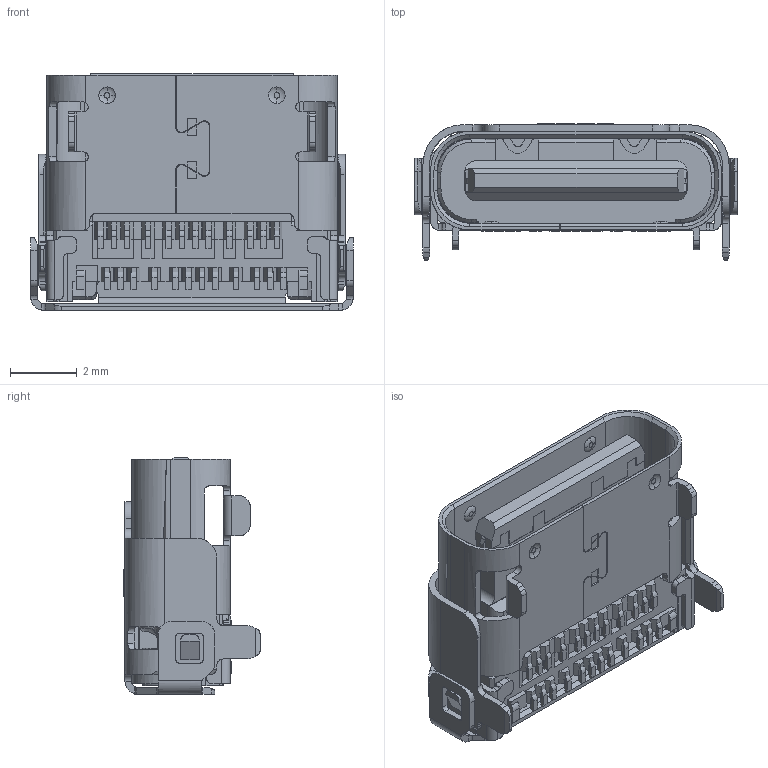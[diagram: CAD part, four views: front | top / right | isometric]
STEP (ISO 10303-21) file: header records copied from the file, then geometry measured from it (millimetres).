
FILE_DESCRIPTION (( 'STEP AP203' ), '1' );
FILE_NAME ('U5460-24PN7.11L.stp', '2026-08-20T07:47:08', ( '' ), ( '' ), 'SwSTEP 2.0', 'SolidWorks 2020', '' );
FILE_SCHEMA (( 'CONFIG_CONTROL_DESIGN' ));
Length unit declared in the file: millimetre
Products named in the file (27): MSBR.1.1.1.1.1.1.1.1.2.1.1.2.1.1.1.1.1.1.1.1.1.1.2.1.1.1.2.2^LAYER-2_LAYER.5-1_a1_333.stp_UH0B01-069_C_F_TYPES_c_SMT6.75_2_.stp_stp_USB_Type_C_24PIN_SMT_on_borad_top_cover_L_7.1_20230620.stp_~; MSBR.1.1.1.1.1.1.1.1.2.1.1.2.1.1.1.1.1.1.1.1.1.1.2.3^LAYER-2_LAYER.5-1_a1_333.stp_UH0B01-069_C_F_TYPES_c_SMT6.75_2_.stp_stp_USB_Type_C_24PIN_SMT_on_borad_top_cover_L_7.1_20230620.stp_U5460-24~; MSBR.1.1.1.1.1.1.1.1.2.1.1.2.1.1.1.1.1.1.1.2.1.1.1.1.2^MD2_ASS_ASM_a1_333.stp_UH0B01-069_C_F_TYPES_c_SMT6.75_2_.stp_stp_USB_Type_C_24PIN_SMT_on_borad_top_cover_L_7.1_20230620.stp_U5460-24PN7.~; p1^HOUSING_BASE_1_333.stp_UH0B01-069_C_F_TYPES_c_SMT6.75_2_.stp_stp_USB_Type_C_24PIN_SMT_on_borad_top_cover_L_7.1_20230620.stp_U5460-24PN7.11L(2)_U5460-24PN7.11L; MSBR.1.1.1.1.1.1.1.1.2.1.1.2.1.1.1.1.1.1.1.1.1.1.2.1.3^LAYER-2_LAYER.5-1_a1_333.stp_UH0B01-069_C_F_TYPES_c_SMT6.75_2_.stp_stp_USB_Type_C_24PIN_SMT_on_borad_top_cover_L_7.1_20230620.stp_U5460-~; U5460-24PN7.11L(2)^U5460-24PN7.11L; MSBR.1.1.1.1.1.1.1.1.2.1.1.2.1.1.1.1.1.1.1.1.1.1.3^LAYER-2_LAYER.5-1_a1_333.stp_UH0B01-069_C_F_TYPES_c_SMT6.75_2_.stp_stp_USB_Type_C_24PIN_SMT_on_borad_top_cover_L_7.1_20230620.stp_U5460-24PN~; stp^USB_Type_C_24PIN_SMT_on_borad_top_cover_L_7.1_20230620.stp_U5460-24PN7.11L(2)_U5460-24PN7.11L; USB_Type_C_24PIN_SMT_on_borad_top_cover_L_7.1_20230620.stp^U5460-24PN7.11L(2)_U5460-24PN7.11L; p2^HOUSING_BASE_1_333.stp_UH0B01-069_C_F_TYPES_c_SMT6.75_2_.stp_stp_USB_Type_C_24PIN_SMT_on_borad_top_cover_L_7.1_20230620.stp_U5460-24PN7.11L(2)_U5460-24PN7.11L; MSBR.1.1.1.1.1.1.1.1.2.1.1.2.1.1.1.1.1.1.1.1.1.3^LAYER-2_LAYER.5-1_a1_333.stp_UH0B01-069_C_F_TYPES_c_SMT6.75_2_.stp_stp_USB_Type_C_24PIN_SMT_on_borad_top_cover_L_7.1_20230620.stp_U5460-24PN7.~; MSBR.1.1.1.1.1.1.1.1.2.1.1.2.1.1.1.1.1.1.1.1.3^LAYER-2_LAYER.5-1_a1_333.stp_UH0B01-069_C_F_TYPES_c_SMT6.75_2_.stp_stp_USB_Type_C_24PIN_SMT_on_borad_top_cover_L_7.1_20230620.stp_U5460-24PN7.11~; MSBR.1.1.1.1.1.1.1.1.2.1.1.2.1.1.1.1.1.1.1.3.1.2^LAYER-2_LAYER.5-1_a1_333.stp_UH0B01-069_C_F_TYPES_c_SMT6.75_2_.stp_stp_USB_Type_C_24PIN_SMT_on_borad_top_cover_L_7.1_20230620.stp_U5460-24PN7.~; LAYER-2^LAYER.5-1_a1_333.stp_UH0B01-069_C_F_TYPES_c_SMT6.75_2_.stp_stp_USB_Type_C_24PIN_SMT_on_borad_top_cover_L_7.1_20230620.stp_U5460-24PN7.11L(2)_U5460-24PN7.11L; U5460-24PN7.11L; a1^333.stp_UH0B01-069_C_F_TYPES_c_SMT6.75_2_.stp_stp_USB_Type_C_24PIN_SMT_on_borad_top_cover_L_7.1_20230620.stp_U5460-24PN7.11L(2)_U5460-24PN7.11L; MSBR.1.1.1.1.1.1.1.1.2.1.1.2.1.1.1.1.1.1.1.2.2.1.2^MD2_ASS_ASM_a1_333.stp_UH0B01-069_C_F_TYPES_c_SMT6.75_2_.stp_stp_USB_Type_C_24PIN_SMT_on_borad_top_cover_L_7.1_20230620.stp_U5460-24PN7.11L(~; cover_shell^USB_Type_C_24PIN_SMT_on_borad_top_cover_L_7.1_20230620.stp_U5460-24PN7.11L(2)_U5460-24PN7.11L; MD2_ASS_ASM^a1_333.stp_UH0B01-069_C_F_TYPES_c_SMT6.75_2_.stp_stp_USB_Type_C_24PIN_SMT_on_borad_top_cover_L_7.1_20230620.stp_U5460-24PN7.11L(2)_U5460-24PN7.11L; MSBR.1.1.1.1.1.1.1.1.2.1.1.2.1.1.1.1.1.1.1.2.3.1.1.2^LAYER-2_LAYER.5-1_a1_333.stp_UH0B01-069_C_F_TYPES_c_SMT6.75_2_.stp_stp_USB_Type_C_24PIN_SMT_on_borad_top_cover_L_7.1_20230620.stp_U5460-24~; HOUSING_BASE_1^333.stp_UH0B01-069_C_F_TYPES_c_SMT6.75_2_.stp_stp_USB_Type_C_24PIN_SMT_on_borad_top_cover_L_7.1_20230620.stp_U5460-24PN7.11L(2)_U5460-24PN7.11L; MSBR.1.1.1.1.1.1.1.1.2.1.1.2.1.1.1.1.1.1.1.1.1.1.2.1.1.2^LAYER-2_LAYER.5-1_a1_333.stp_UH0B01-069_C_F_TYPES_c_SMT6.75_2_.stp_stp_USB_Type_C_24PIN_SMT_on_borad_top_cover_L_7.1_20230620.stp_U546~; 333.stp^UH0B01-069_C_F_TYPES_c_SMT6.75_2_.stp_stp_USB_Type_C_24PIN_SMT_on_borad_top_cover_L_7.1_20230620.stp_U5460-24PN7.11L(2)_U5460-24PN7.11L; UH0B01-069_C_F_TYPES_c_SMT6.75_2_.stp^stp_USB_Type_C_24PIN_SMT_on_borad_top_cover_L_7.1_20230620.stp_U5460-24PN7.11L(2)_U5460-24PN7.11L; LAYER.5-1^a1_333.stp_UH0B01-069_C_F_TYPES_c_SMT6.75_2_.stp_stp_USB_Type_C_24PIN_SMT_on_borad_top_cover_L_7.1_20230620.stp_U5460-24PN7.11L(2)_U5460-24PN7.11L; MSBR.1.1.1.1.1.1.1.1.2.1.1.2.1.1.1.1.1.1.1.1.1.1.2.1.1.1.1.2^LAYER-2_LAYER.5-1_a1_333.stp_UH0B01-069_C_F_TYPES_c_SMT6.75_2_.stp_stp_USB_Type_C_24PIN_SMT_on_borad_top_cover_L_7.1_20230620.stp_~; MSBR.1.1.1.1.1.1.1.1.2.1.1.2.1.1.1.1.1.1.1.2.1.3.1.1.2^LAYER-2_LAYER.5-1_a1_333.stp_UH0B01-069_C_F_TYPES_c_SMT6.75_2_.stp_stp_USB_Type_C_24PIN_SMT_on_borad_top_cover_L_7.1_20230620.stp_U5460-~
Assembly tree (26 placements, depth 10):
  U5460-24PN7.11L
    U5460-24PN7.11L(2)^U5460-24PN7.11L
      USB_Type_C_24PIN_SMT_on_borad_top_cover_L_7.1_20230620.stp^U5460-24PN7.11L(2)_U5460-24PN7.11L
        stp^USB_Type_C_24PIN_SMT_on_borad_top_cover_L_7.1_20230620.stp_U5460-24PN7.11L(2)_U5460-24PN7.11L
          UH0B01-069_C_F_TYPES_c_SMT6.75_2_.stp^stp_USB_Type_C_24PIN_SMT_on_borad_top_cover_L_7.1_20230620.stp_U5460-24PN7.11L(2)_U5460-24PN7.11L
            333.stp^UH0B01-069_C_F_TYPES_c_SMT6.75_2_.stp_stp_USB_Type_C_24PIN_SMT_on_borad_top_cover_L_7.1_20230620.stp_U5460-24PN7.11L(2)_U5460-24PN7.11L
              a1^333.stp_UH0B01-069_C_F_TYPES_c_SMT6.75_2_.stp_stp_USB_Type_C_24PIN_SMT_on_borad_top_cover_L_7.1_20230620.stp_U5460-24PN7.11L(2)_U5460-24PN7.11L
                MD2_ASS_ASM^a1_333.stp_UH0B01-069_C_F_TYPES_c_SMT6.75_2_.stp_stp_USB_Type_C_24PIN_SMT_on_borad_top_cover_L_7.1_20230620.stp_U5460-24PN7.11L(2)_U5460-24PN7.11L
                  MSBR.1.1.1.1.1.1.1.1.2.1.1.2.1.1.1.1.1.1.1.2.1.1.1.1.2^MD2_ASS_ASM_a1_333.stp_UH0B01-069_C_F_TYPES_c_SMT6.75_2_.stp_stp_USB_Type_C_24PIN_SMT_on_borad_top_cover_L_7.1_20230620.stp_U5460-24PN7.~
                  MSBR.1.1.1.1.1.1.1.1.2.1.1.2.1.1.1.1.1.1.1.2.2.1.2^MD2_ASS_ASM_a1_333.stp_UH0B01-069_C_F_TYPES_c_SMT6.75_2_.stp_stp_USB_Type_C_24PIN_SMT_on_borad_top_cover_L_7.1_20230620.stp_U5460-24PN7.11L(~
                LAYER.5-1^a1_333.stp_UH0B01-069_C_F_TYPES_c_SMT6.75_2_.stp_stp_USB_Type_C_24PIN_SMT_on_borad_top_cover_L_7.1_20230620.stp_U5460-24PN7.11L(2)_U5460-24PN7.11L
                  LAYER-2^LAYER.5-1_a1_333.stp_UH0B01-069_C_F_TYPES_c_SMT6.75_2_.stp_stp_USB_Type_C_24PIN_SMT_on_borad_top_cover_L_7.1_20230620.stp_U5460-24PN7.11L(2)_U5460-24PN7.11L
              HOUSING_BASE_1^333.stp_UH0B01-069_C_F_TYPES_c_SMT6.75_2_.stp_stp_USB_Type_C_24PIN_SMT_on_borad_top_cover_L_7.1_20230620.stp_U5460-24PN7.11L(2)_U5460-24PN7.11L
                p2^HOUSING_BASE_1_333.stp_UH0B01-069_C_F_TYPES_c_SMT6.75_2_.stp_stp_USB_Type_C_24PIN_SMT_on_borad_top_cover_L_7.1_20230620.stp_U5460-24PN7.11L(2)_U5460-24PN7.11L
                p1^HOUSING_BASE_1_333.stp_UH0B01-069_C_F_TYPES_c_SMT6.75_2_.stp_stp_USB_Type_C_24PIN_SMT_on_borad_top_cover_L_7.1_20230620.stp_U5460-24PN7.11L(2)_U5460-24PN7.11L
        cover_shell^USB_Type_C_24PIN_SMT_on_borad_top_cover_L_7.1_20230620.stp_U5460-24PN7.11L(2)_U5460-24PN7.11L
Bounding box: 9.7 x 4.09 x 7.11 mm (x, y, z)
Volume: 20.3 mm3; surface area: 625.8 mm2
Topology: 17 solids, 22 shells, 1183 faces, 3291 edges, 2151 vertices
Faces by surface type: plane 831, cylinder 258, torus 38, cone 28, bspline 28
Entity records: 45289 total; most frequent: CARTESIAN_POINT 17350, ORIENTED_EDGE 6577, EDGE_CURVE 3291, DIRECTION 3088, B_SPLINE_CURVE_WITH_KNOTS 2643, VERTEX_POINT 2151, AXIS2_PLACEMENT_3D 1246, EDGE_LOOP 1228
